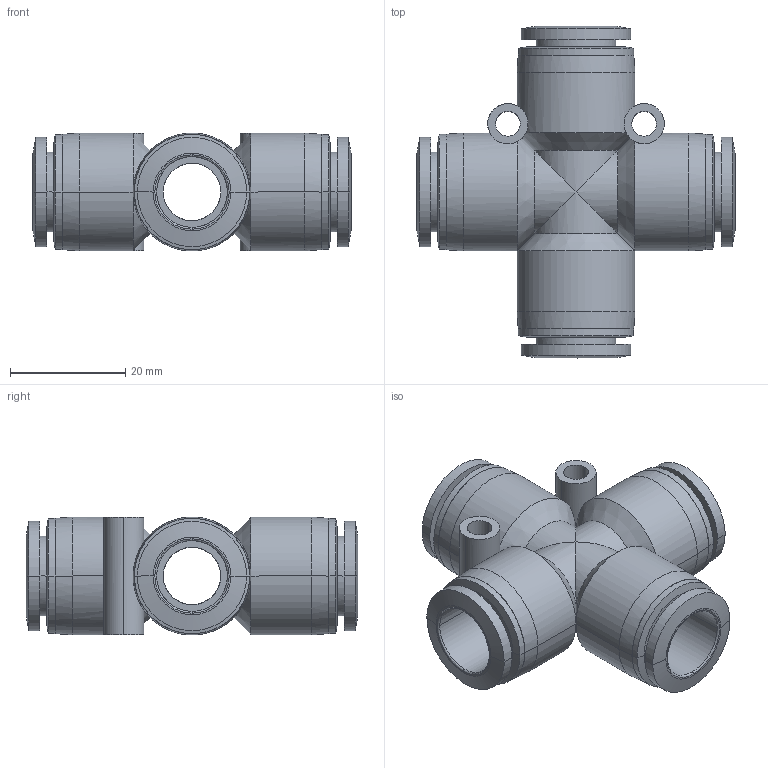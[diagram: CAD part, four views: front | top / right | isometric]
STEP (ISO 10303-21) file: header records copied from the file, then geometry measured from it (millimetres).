
FILE_DESCRIPTION (( 'STEP AP203' ), '1' );
FILE_NAME ('FX12-00.STEP', '2020-05-12T15:26:13', ( '' ), ( '' ), 'SwSTEP 2.0', 'SolidWorks 2019', '' );
FILE_SCHEMA (( 'CONFIG_CONTROL_DESIGN' ));
Length unit declared in the file: millimetre
Products named in the file (1): FX12-00
Bounding box: 55.3 x 57.7 x 20.5 mm (x, y, z)
Surface area: 12564.4 mm2 (no closed solid volume)
Topology: 0 solids, 1 shells, 128 faces, 298 edges, 176 vertices
Faces by surface type: cylinder 64, cone 32, plane 24, torus 8
Entity records: 7675 total; most frequent: CARTESIAN_POINT 5125, ORIENTED_EDGE 572, DIRECTION 356, EDGE_CURVE 294, B_SPLINE_CURVE_WITH_KNOTS 204, VERTEX_POINT 174, EDGE_LOOP 152, AXIS2_PLACEMENT_3D 137
